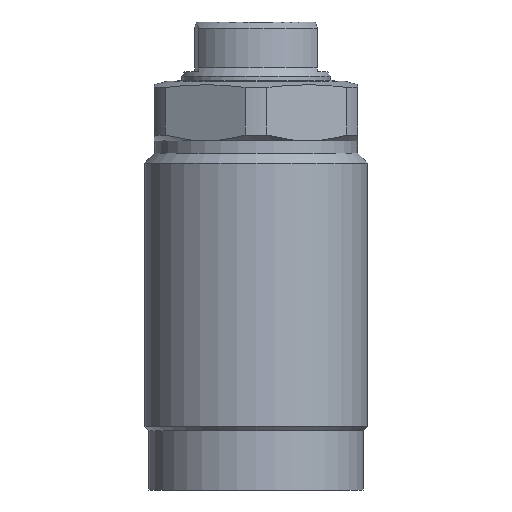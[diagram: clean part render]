
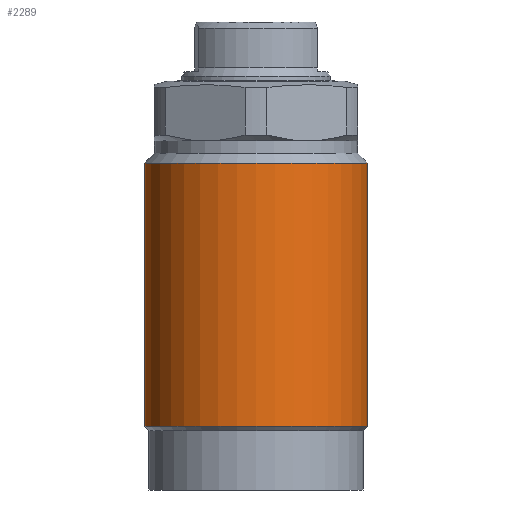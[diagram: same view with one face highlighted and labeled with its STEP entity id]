
A CAD part, front view. The second image highlights one B-rep face of the part: STEP entity #2289.
In plain terms, the highlighted cylindrical face has radius 22.5 mm (diameter 45 mm), a partial arc.
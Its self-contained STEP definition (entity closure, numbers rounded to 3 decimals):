
#41 = VECTOR ( 'NONE', #1754, 1000. ) ;
#42 = VECTOR ( 'NONE', #1758, 1000. ) ;
#237 = CARTESIAN_POINT ( 'NONE',  ( -22.5, 0., -16.5 ) ) ;
#239 = CARTESIAN_POINT ( 'NONE',  ( 22.5, 0., -69.65 ) ) ;
#244 = CARTESIAN_POINT ( 'NONE',  ( -22.5, 0., -69.65 ) ) ;
#246 = CARTESIAN_POINT ( 'NONE',  ( 22.5, 0., -16.5 ) ) ;
#260 = DIRECTION ( 'NONE',  ( 0., 0., 1. ) ) ;
#263 = FACE_OUTER_BOUND ( 'NONE', #870, .T. ) ;
#264 = CARTESIAN_POINT ( 'NONE',  ( 0., 0., 5.219 ) ) ;
#266 = CYLINDRICAL_SURFACE ( 'NONE', #1329, 22.5 ) ;
#267 = DIRECTION ( 'NONE',  ( 1., 0., 0. ) ) ;
#416 = EDGE_CURVE ( 'NONE', #2258, #2253, #1750, .T. ) ;
#417 = EDGE_CURVE ( 'NONE', #2255, #2260, #1755, .T. ) ;
#516 = EDGE_CURVE ( 'NONE', #2258, #2255, #1211, .T. ) ;
#517 = EDGE_CURVE ( 'NONE', #2253, #2260, #1213, .T. ) ;
#706 = ORIENTED_EDGE ( 'NONE', *, *, #416, .F. ) ;
#707 = ORIENTED_EDGE ( 'NONE', *, *, #516, .T. ) ;
#708 = ORIENTED_EDGE ( 'NONE', *, *, #417, .T. ) ;
#709 = ORIENTED_EDGE ( 'NONE', *, *, #517, .F. ) ;
#870 = EDGE_LOOP ( 'NONE', ( #706, #707, #708, #709 ) ) ;
#1211 = CIRCLE ( 'NONE', #1214, 22.5 ) ;
#1213 = CIRCLE ( 'NONE', #1216, 22.5 ) ;
#1214 = AXIS2_PLACEMENT_3D ( 'NONE', #1568, #1569, #1570 ) ;
#1216 = AXIS2_PLACEMENT_3D ( 'NONE', #1571, #1572, #1573 ) ;
#1329 = AXIS2_PLACEMENT_3D ( 'NONE', #264, #260, #267 ) ;
#1568 = CARTESIAN_POINT ( 'NONE',  ( 0., 0., -69.65 ) ) ;
#1569 = DIRECTION ( 'NONE',  ( 0., 0., 1. ) ) ;
#1570 = DIRECTION ( 'NONE',  ( 1., 0., 0. ) ) ;
#1571 = CARTESIAN_POINT ( 'NONE',  ( 0., 0., -16.5 ) ) ;
#1572 = DIRECTION ( 'NONE',  ( 0., 0., 1. ) ) ;
#1573 = DIRECTION ( 'NONE',  ( 1., 0., 0. ) ) ;
#1749 = CARTESIAN_POINT ( 'NONE',  ( -22.5, 0., 5.219 ) ) ;
#1750 = LINE ( 'NONE', #1749, #41 ) ;
#1754 = DIRECTION ( 'NONE',  ( 0., 0., 1. ) ) ;
#1755 = LINE ( 'NONE', #1757, #42 ) ;
#1757 = CARTESIAN_POINT ( 'NONE',  ( 22.5, 0., 5.219 ) ) ;
#1758 = DIRECTION ( 'NONE',  ( 0., 0., 1. ) ) ;
#2253 = VERTEX_POINT ( 'NONE', #237 ) ;
#2255 = VERTEX_POINT ( 'NONE', #239 ) ;
#2258 = VERTEX_POINT ( 'NONE', #244 ) ;
#2260 = VERTEX_POINT ( 'NONE', #246 ) ;
#2289 = ADVANCED_FACE ( 'NONE', ( #263 ), #266, .T. ) ;
